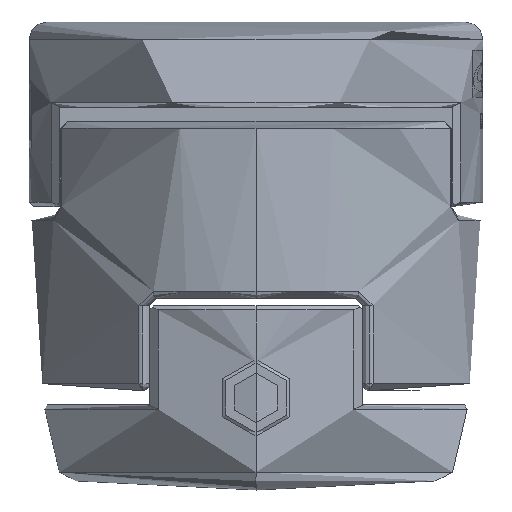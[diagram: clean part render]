
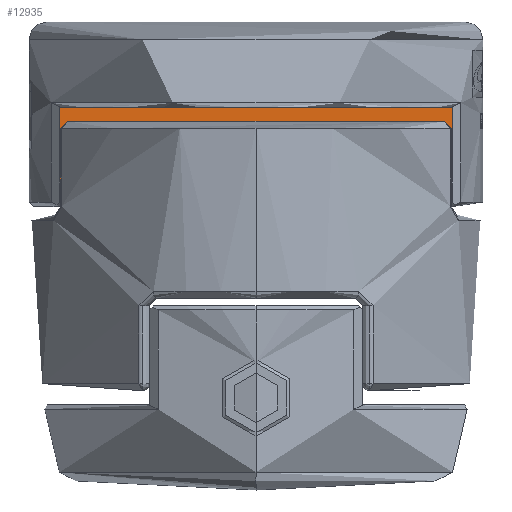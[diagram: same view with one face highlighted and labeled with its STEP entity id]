
A CAD part, left-side view. The second image highlights one B-rep face of the part: STEP entity #12935.
In plain terms, the highlighted planar face has unit normal (1, 0, 0).
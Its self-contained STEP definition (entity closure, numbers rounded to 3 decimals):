
#32 = DIRECTION ( 'NONE',  ( 0., -1., 0. ) ) ;
#33 = VECTOR ( 'NONE', #32, 1000. ) ;
#34 = CARTESIAN_POINT ( 'NONE',  ( -6.379, 16.129, 14.852 ) ) ;
#35 = LINE ( 'NONE', #34, #33 ) ;
#617 = CARTESIAN_POINT ( 'NONE',  ( -6.379, 15.829, 14.852 ) ) ;
#645 = CARTESIAN_POINT ( 'NONE',  ( -6.379, 15.788, 21.552 ) ) ;
#646 = CARTESIAN_POINT ( 'NONE',  ( -6.379, 15.802, 21.564 ) ) ;
#647 = CARTESIAN_POINT ( 'NONE',  ( -6.379, 15.815, 21.576 ) ) ;
#648 = CARTESIAN_POINT ( 'NONE',  ( -6.379, 15.829, 21.588 ) ) ;
#649 = B_SPLINE_CURVE_WITH_KNOTS ( 'NONE', 3,
 ( #648, #647, #646, #645 ),
 .UNSPECIFIED., .F., .F.,
 ( 4, 4 ),
 ( 0., 1. ),
 .UNSPECIFIED. ) ;
#689 = CARTESIAN_POINT ( 'NONE',  ( -6.379, 15.829, 21.588 ) ) ;
#694 = CARTESIAN_POINT ( 'NONE',  ( -6.379, 15.788, 21.552 ) ) ;
#744 = CARTESIAN_POINT ( 'NONE',  ( -6.379, -11.797, 21.552 ) ) ;
#747 = DIRECTION ( 'NONE',  ( 0., 0., 1. ) ) ;
#748 = VECTOR ( 'NONE', #747, 1000. ) ;
#749 = CARTESIAN_POINT ( 'NONE',  ( -6.379, 15.829, 14.552 ) ) ;
#754 = LINE ( 'NONE', #749, #748 ) ;
#923 = CARTESIAN_POINT ( 'NONE',  ( -6.379, -11.838, 21.588 ) ) ;
#924 = CARTESIAN_POINT ( 'NONE',  ( -6.379, -11.824, 21.576 ) ) ;
#925 = CARTESIAN_POINT ( 'NONE',  ( -6.379, -11.811, 21.564 ) ) ;
#926 = CARTESIAN_POINT ( 'NONE',  ( -6.379, -11.797, 21.552 ) ) ;
#928 = B_SPLINE_CURVE_WITH_KNOTS ( 'NONE', 3,
 ( #926, #925, #924, #923 ),
 .UNSPECIFIED., .F., .F.,
 ( 4, 4 ),
 ( 0., 1. ),
 .UNSPECIFIED. ) ;
#1216 = FACE_OUTER_BOUND ( 'NONE', #12701, .T. ) ;
#1255 = PLANE ( 'NONE',  #1259 ) ;
#1256 = DIRECTION ( 'NONE',  ( 0., -1., 0. ) ) ;
#1257 = DIRECTION ( 'NONE',  ( -1., 0., 0. ) ) ;
#1258 = CARTESIAN_POINT ( 'NONE',  ( -6.379, 16.129, 21.552 ) ) ;
#1259 = AXIS2_PLACEMENT_3D ( 'NONE', #1258, #1257, #1256 ) ;
#1454 = CARTESIAN_POINT ( 'NONE',  ( -6.379, -11.838, 14.852 ) ) ;
#1512 = DIRECTION ( 'NONE',  ( 0., 0., -1. ) ) ;
#1513 = VECTOR ( 'NONE', #1512, 1000. ) ;
#1514 = CARTESIAN_POINT ( 'NONE',  ( -6.379, -11.838, 14.552 ) ) ;
#1515 = LINE ( 'NONE', #1514, #1513 ) ;
#2205 = VECTOR ( 'NONE', #2265, 1000. ) ;
#2206 = CARTESIAN_POINT ( 'NONE',  ( -6.379, 16.129, 21.552 ) ) ;
#2207 = LINE ( 'NONE', #2206, #2205 ) ;
#2265 = DIRECTION ( 'NONE',  ( 0., 1., 0. ) ) ;
#3921 = ORIENTED_EDGE ( 'NONE', *, *, #13241, .T. ) ;
#3922 = ORIENTED_EDGE ( 'NONE', *, *, #3923, .F. ) ;
#3923 = EDGE_CURVE ( 'NONE', #4221, #13236, #35, .T. ) ;
#3996 = ORIENTED_EDGE ( 'NONE', *, *, #4330, .T. ) ;
#4221 = VERTEX_POINT ( 'NONE', #617 ) ;
#4236 = EDGE_CURVE ( 'NONE', #4246, #4244, #649, .T. ) ;
#4244 = VERTEX_POINT ( 'NONE', #694 ) ;
#4246 = VERTEX_POINT ( 'NONE', #689 ) ;
#4267 = EDGE_CURVE ( 'NONE', #4221, #4246, #754, .T. ) ;
#4276 = VERTEX_POINT ( 'NONE', #744 ) ;
#4330 = EDGE_CURVE ( 'NONE', #4276, #6305, #928, .T. ) ;
#6305 = VERTEX_POINT ( 'NONE', #12630 ) ;
#12630 = CARTESIAN_POINT ( 'NONE',  ( -6.379, -11.838, 21.588 ) ) ;
#12701 = EDGE_LOOP ( 'NONE', ( #3996, #3921, #3922, #13650, #13643, #13512 ) ) ;
#12935 = ADVANCED_FACE ( 'NONE', ( #1216 ), #1255, .F. ) ;
#13236 = VERTEX_POINT ( 'NONE', #1454 ) ;
#13241 = EDGE_CURVE ( 'NONE', #6305, #13236, #1515, .T. ) ;
#13511 = EDGE_CURVE ( 'NONE', #4276, #4244, #2207, .T. ) ;
#13512 = ORIENTED_EDGE ( 'NONE', *, *, #13511, .F. ) ;
#13643 = ORIENTED_EDGE ( 'NONE', *, *, #4236, .T. ) ;
#13650 = ORIENTED_EDGE ( 'NONE', *, *, #4267, .T. ) ;
